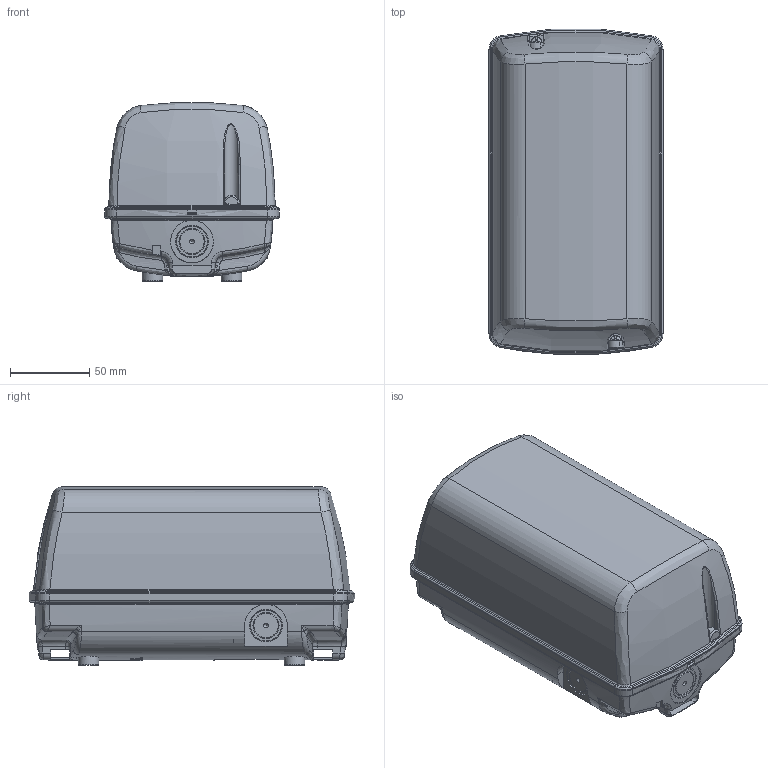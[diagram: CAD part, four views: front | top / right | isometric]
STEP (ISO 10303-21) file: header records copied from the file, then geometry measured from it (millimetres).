
FILE_DESCRIPTION(/* description */ (''),/* implementation_level */ '2;1');
FILE_NAME(/* name */ '4009050.stp',/* time_stamp */ '2019-03-05T00:52:30+01:00',/* author */ (''),/* organization */ (''),/* preprocessor_version */ 'ST-DEVELOPER v16.7',/* originating_system */ 'SIEMENS PLM Software NX 12.0',/* authorisation */ '');
FILE_SCHEMA (('AUTOMOTIVE_DESIGN { 1 0 10303 214 3 1 1 1 }'));
Products named in the file (1): BSOM0DCCF74Fw48y
Bounding box: 110 x 205.49 x 112.96 mm (x, y, z)
Volume: 192461.1 mm3; surface area: 247187.5 mm2
Topology: 7 solids, 7 shells, 2355 faces, 6053 edges, 3751 vertices
Faces by surface type: plane 776, sphere 636, cylinder 399, bspline 279, cone 145, torus 79, extrusion 35, revolution 6
Full cylindrical faces by diameter (mm): 2 x2, 2.4 x7, 2.5 x4, 2.8 x2, 3.5 x4, 3.8 x4, 5.5 x2, 7 x6, 10 x8, 13 x6, 16.5 x4, 18 x1, 20.6 x4, 27 x2
Entity records: 86709 total; most frequent: CARTESIAN_POINT 34195, ORIENTED_EDGE 11808, DIRECTION 9786, EDGE_CURVE 5904, AXIS2_PLACEMENT_3D 4109, VERTEX_POINT 3727, EDGE_LOOP 2535, ADVANCED_FACE 2355
